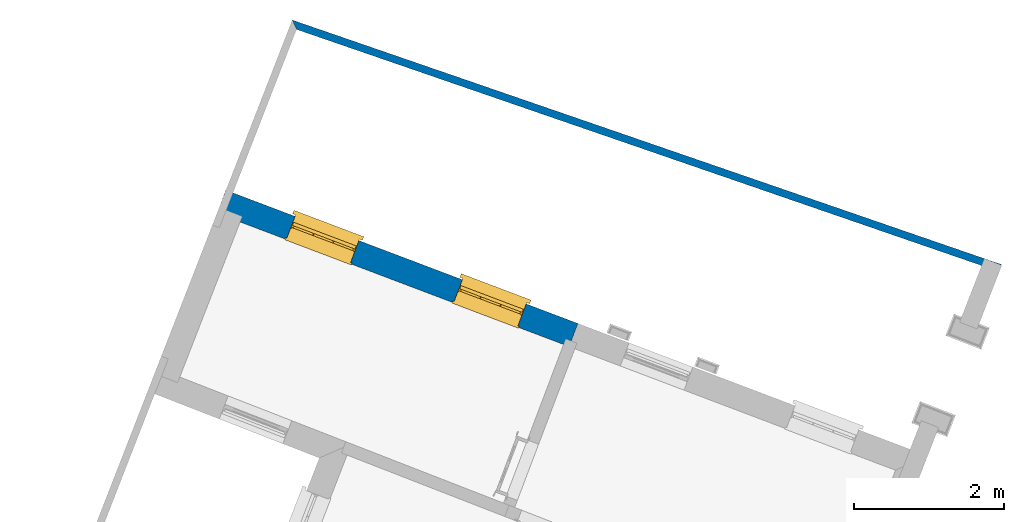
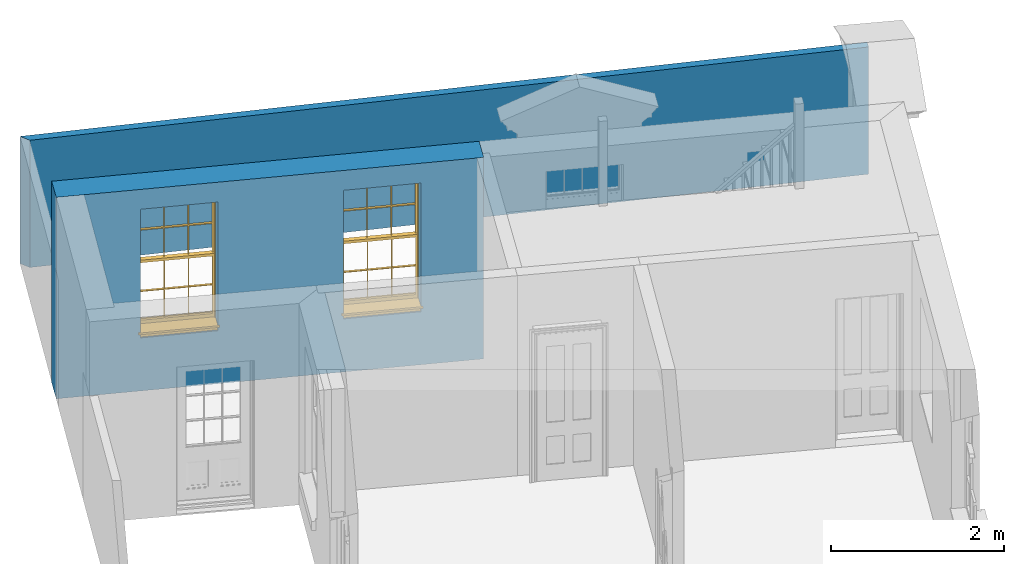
# One storey, part 10 of 10: 2 walls, 2 windows, 2 openings.
"""IFC4 building model written with IfcOpenShell, lengths in metres."""

import ifcopenshell
import ifcopenshell.guid

model = None  # the IFC model being written
_history = None  # IfcOwnerHistory: only IFC2X3 demands one
_inside = {}  # id of a spatial element -> (the spatial element, [elements in it])
_under = {}  # id of a project, library or spatial element -> (it, [spatial elements below it])
_declared = {}  # id of a project -> (the project, [libraries it declares])
_typed = {}  # id of a type object -> (the type object, [elements of that type])
_made_of = {}  # id of a material, layer set ... -> (it, [elements and type objects made of it])


def new_model(schema):
    """Start an empty IFC model of exactly this schema.

    Asked for "IFC4X3", IfcOpenShell would pick the latest addendum, in which some entities
    have other attributes; the version numbers below select the first issue.
    IFC2X3 requires an IfcOwnerHistory on every rooted entity: one is made here for all.
    """
    global model, _history
    if schema == "IFC4X3":
        model = ifcopenshell.file(schema_version=(4, 3, 0, 0))
    else:
        model = ifcopenshell.file(schema=schema)
    _inside.clear()
    _under.clear()
    _declared.clear()
    _typed.clear()
    _made_of.clear()
    _history = None
    if model.schema == "IFC2X3":
        org = make("IfcOrganization", Name="unknown")
        user = make(
            "IfcPersonAndOrganization",
            ThePerson=make("IfcPerson", FamilyName="unknown"),
            TheOrganization=org,
        )
        app = make(
            "IfcApplication",
            ApplicationDeveloper=org,
            Version="unknown",
            ApplicationFullName="unknown",
            ApplicationIdentifier="unknown",
        )
        _history = make(
            "IfcOwnerHistory",
            OwningUser=user,
            OwningApplication=app,
            ChangeAction="ADDED",
            CreationDate=0,
        )
    return model


def make(cls, **values):
    """One entity of the class cls with the attributes given. An attribute that is None is left unset."""
    return model.create_entity(
        cls, **{name: value for name, value in values.items() if value is not None}
    )


def rooted(cls, **values):
    """An entity with a GlobalId (a new one), such as an element, a storey or a relation."""
    return make(cls, GlobalId=ifcopenshell.guid.new(), OwnerHistory=_history, **values)


def si_unit(unit_type, name, prefix=None):
    """IfcSIUnit, for example si_unit("LENGTHUNIT", "METRE", prefix="MILLI")."""
    return make("IfcSIUnit", UnitType=unit_type, Prefix=prefix, Name=name)


def assignment(units):
    """IfcUnitAssignment: the units of a project."""
    return None if units is None else make("IfcUnitAssignment", Units=units)


def point(xyz):
    """IfcCartesianPoint."""
    return None if xyz is None else make("IfcCartesianPoint", Coordinates=xyz)


def direction(xyz):
    """IfcDirection."""
    return None if xyz is None else make("IfcDirection", DirectionRatios=xyz)


def frame(location, z_axis=None, x_axis=None):
    """IfcAxis2Placement3D, a coordinate frame: its origin and axes. An axis left out is left unset."""
    return make(
        "IfcAxis2Placement3D",
        Location=point(location),
        Axis=direction(z_axis),
        RefDirection=direction(x_axis),
    )


def origin():
    """The frame at (0, 0, 0) with its axes left unset."""
    return frame((0.0, 0.0, 0.0))


def origin_with_axes():
    """The frame at (0, 0, 0) with the z axis (0, 0, 1) and the x axis (1, 0, 0) written out."""
    return frame((0.0, 0.0, 0.0), z_axis=(0.0, 0.0, 1.0), x_axis=(1.0, 0.0, 0.0))


def place(relative_to, where):
    """IfcLocalPlacement: puts the frame where relative to a parent placement (None: the world)."""
    return make(
        "IfcLocalPlacement", PlacementRelTo=relative_to, RelativePlacement=where
    )


def context(
    kind, dimensions, precision=None, world=None, true_north=None, identifier=None
):
    """IfcGeometricRepresentationContext, for example the 3D "Model" context."""
    return make(
        "IfcGeometricRepresentationContext",
        ContextIdentifier=identifier,
        ContextType=kind,
        CoordinateSpaceDimension=dimensions,
        Precision=precision,
        WorldCoordinateSystem=world,
        TrueNorth=true_north,
    )


def subcontext(parent, identifier, kind, view, scale=None):
    """IfcGeometricRepresentationSubContext, for example "Body" below "Model"."""
    return make(
        "IfcGeometricRepresentationSubContext",
        ContextIdentifier=identifier,
        ContextType=kind,
        ParentContext=parent,
        TargetScale=scale,
        TargetView=view,
    )


def project(units=None, contexts=None):
    """IfcProject with its units and contexts."""
    return rooted(
        "IfcProject",
        Name="project",
        RepresentationContexts=contexts,
        UnitsInContext=assignment(units),
    )


def spatial(cls, under=None, at=None, **own):
    """A site, building, storey or space (cls), placed at a placement, below another one or the project."""
    s = rooted(cls, ObjectPlacement=at, **own)
    if under is not None:
        _under.setdefault(under.id(), (under, []))[1].append(s)
    return s


def polyline(points):
    """IfcPolyline through the points."""
    return make("IfcPolyline", Points=[point(p) for p in points])


def outline(outer, holes=None, kind="AREA"):
    """IfcArbitraryClosedProfileDef: a profile drawn as a closed curve; with holes, ...WithVoids."""
    if holes is None:
        return make("IfcArbitraryClosedProfileDef", ProfileType=kind, OuterCurve=outer)
    return make(
        "IfcArbitraryProfileDefWithVoids",
        ProfileType=kind,
        OuterCurve=outer,
        InnerCurves=holes,
    )


def extrude(swept, where, along, depth):
    """IfcExtrudedAreaSolid: the profile swept, set in the frame where, extruded along a direction by depth."""
    return make(
        "IfcExtrudedAreaSolid",
        SweptArea=swept,
        Position=where,
        ExtrudedDirection=direction(along),
        Depth=depth,
    )


def faces_of(points, faces, orient=None, outer=None):
    """IfcFace entities. A face is a list of loops; a loop is a list of indices into points, from 0.

    orient and outer hold one flag for each loop. By default every Orientation is true, the
    first loop of a face is its IfcFaceOuterBound and the others are IfcFaceBound.
    """
    made = []
    for i, loops in enumerate(faces):
        bounds = []
        for j, loop in enumerate(loops):
            is_outer = j == 0 if outer is None else outer[i][j]
            bounds.append(
                make(
                    "IfcFaceOuterBound" if is_outer else "IfcFaceBound",
                    Bound=make("IfcPolyLoop", Polygon=[points[k] for k in loop]),
                    Orientation=True if orient is None else orient[i][j],
                )
            )
        made.append(make("IfcFace", Bounds=bounds))
    return made


def faceted_brep(points, faces, orient=None, outer=None, voids=None):
    """IfcFacetedBrep: a solid bounded by flat faces; with voids (closed shells), ...WithVoids."""
    shared = [point(p) for p in points]
    hull = make("IfcClosedShell", CfsFaces=faces_of(shared, faces, orient, outer))
    if voids is None:
        return make("IfcFacetedBrep", Outer=hull)
    return make(
        "IfcFacetedBrepWithVoids",
        Outer=hull,
        Voids=[
            make(cls, CfsFaces=faces_of(shared, fs, o, b)) for cls, fs, o, b in voids
        ],
    )


def shape(context_of_items, identifier, shape_type, items):
    """IfcShapeRepresentation: the items that make up one representation, for example the "Body"."""
    return make(
        "IfcShapeRepresentation",
        ContextOfItems=context_of_items,
        RepresentationIdentifier=identifier,
        RepresentationType=shape_type,
        Items=items,
    )


def source(mapping_origin, context_of_items, identifier, shape_type, items):
    """IfcRepresentationMap: a shape defined once, which mapped items show again and again."""
    return make(
        "IfcRepresentationMap",
        MappingOrigin=mapping_origin,
        MappedRepresentation=shape(context_of_items, identifier, shape_type, items),
    )


def transform(
    local_origin,
    x_axis=None,
    y_axis=None,
    z_axis=None,
    scale=None,
    scale2=None,
    scale3=None,
    uniform=True,
):
    """IfcCartesianTransformationOperator3D, or its non-uniform kind. x_axis, y_axis, z_axis: its Axis1, 2, 3."""
    if uniform:
        return make(
            "IfcCartesianTransformationOperator3D",
            Axis1=direction(x_axis),
            Axis2=direction(y_axis),
            LocalOrigin=point(local_origin),
            Scale=scale,
            Axis3=direction(z_axis),
        )
    return make(
        "IfcCartesianTransformationOperator3DnonUniform",
        Axis1=direction(x_axis),
        Axis2=direction(y_axis),
        LocalOrigin=point(local_origin),
        Scale=scale,
        Axis3=direction(z_axis),
        Scale2=scale2,
        Scale3=scale3,
    )


def mapped(mapping_source, mapping_target):
    """IfcMappedItem: shows the shape of a source again, moved by a transform."""
    return make(
        "IfcMappedItem", MappingSource=mapping_source, MappingTarget=mapping_target
    )


def material(Name=None, Category=None):
    """IfcMaterial."""
    return make("IfcMaterial", Name=Name, Category=Category)


def layer(
    of_material, thickness, ventilated=None, Name=None, Category=None, Priority=None
):
    """IfcMaterialLayer: one layer of a wall or slab, of a material (None: an air gap)."""
    return make(
        "IfcMaterialLayer",
        Material=of_material,
        LayerThickness=thickness,
        IsVentilated=ventilated,
        Name=Name,
        Category=Category,
        Priority=Priority,
    )


def layer_set(layers, Name=None):
    """IfcMaterialLayerSet."""
    return make("IfcMaterialLayerSet", MaterialLayers=layers, LayerSetName=Name)


def layer_usage(for_layer_set, set_direction, sense, offset, extent=None):
    """IfcMaterialLayerSetUsage: how a layer set lies in its element."""
    return make(
        "IfcMaterialLayerSetUsage",
        ForLayerSet=for_layer_set,
        LayerSetDirection=set_direction,
        DirectionSense=sense,
        OffsetFromReferenceLine=offset,
        ReferenceExtent=extent,
    )


def made_of(thing, what):
    """Note that an element or type object is made of a material, layer set ...; save() writes the relation."""
    if what is not None:
        _made_of.setdefault(what.id(), (what, []))[1].append(thing)
    return thing


def type_object(cls, material=None, **own):
    """A type object (cls), such as IfcWallType, which elements share."""
    return made_of(rooted(cls, **own), material)


def type_shapes(of_type, sources):
    """Give a type object the sources (RepresentationMaps) that its elements show as mapped items."""
    of_type.RepresentationMaps = sources


def element(
    cls,
    number,
    at=None,
    inside=None,
    cuts=None,
    type_object=None,
    material=None,
    context=None,
    identifier="Body",
    shape_type=None,
    held_by="IfcProductDefinitionShape",
    body=None,
    shapes=None,
    **own,
):
    """One element of the class cls, such as IfcWall. Its Tag is "e" and its number.

    at: its placement. inside: the storey or other place that contains it. cuts: it is an
    opening in that element (IfcRelVoidsElement). A single representation is given by context,
    identifier, shape_type and body (its items); several are given by shapes. held_by: the class
    of the entity that holds the representations. save() writes the other relations.
    """
    e = rooted(cls, Tag="e%d" % number, ObjectPlacement=at, **own)
    if body is not None:
        shapes = [shape(context, identifier, shape_type, body)]
    if shapes is not None:
        e.Representation = make(held_by, Representations=shapes)
    if inside is not None:
        _inside.setdefault(inside.id(), (inside, []))[1].append(e)
    if cuts is not None:
        rooted(
            "IfcRelVoidsElement", RelatingBuildingElement=cuts, RelatedOpeningElement=e
        )
    if type_object is not None:
        _typed.setdefault(type_object.id(), (type_object, []))[1].append(e)
    return made_of(e, material)


def fill(opening, filler):
    """IfcRelFillsElement: the door or window that sits in an opening."""
    return rooted(
        "IfcRelFillsElement",
        RelatingOpeningElement=opening,
        RelatedBuildingElement=filler,
    )


def aggregate(whole, parts):
    """IfcRelAggregates: a whole, such as a stair, and the parts it consists of."""
    return rooted("IfcRelAggregates", RelatingObject=whole, RelatedObjects=parts)


def save(model, path):
    """Write the relations noted so far, then the file.

    IfcRelAggregates (storeys below a building ...), IfcRelContainedInSpatialStructure (elements
    in a storey), IfcRelDefinesByType, IfcRelAssociatesMaterial and IfcRelDeclares: one each for
    every whole, place, type object, material and project.
    """
    for whole, parts in _under.values():
        aggregate(whole, parts)
    for where, things in _inside.values():
        rooted(
            "IfcRelContainedInSpatialStructure",
            RelatedElements=things,
            RelatingStructure=where,
        )
    for kind, things in _typed.values():
        rooted("IfcRelDefinesByType", RelatedObjects=things, RelatingType=kind)
    for what, things in _made_of.values():
        rooted("IfcRelAssociatesMaterial", RelatedObjects=things, RelatingMaterial=what)
    for by, libraries in _declared.values():
        rooted("IfcRelDeclares", RelatingContext=by, RelatedDefinitions=libraries)
    model.write(path)


model = new_model("IFC4")

# Units and contexts
model_context = context("Model", 3, world=origin_with_axes())
body_context = subcontext(model_context, "Body", "Model", "MODEL_VIEW")
ifc_project = project(units=[si_unit("PLANEANGLEUNIT", "RADIAN"), si_unit("MASSUNIT", "GRAM", prefix="KILO"), si_unit("FORCEUNIT", "NEWTON", prefix="KILO"), si_unit("LENGTHUNIT", "METRE"), si_unit("AREAUNIT", "SQUARE_METRE"), si_unit("VOLUMEUNIT", "CUBIC_METRE")], contexts=[model_context, model_context])

# Sites, building, storey
site_1_placement = place(None, origin_with_axes())
site_1 = spatial("IfcSite", under=ifc_project, at=site_1_placement, Name="Tamar")
site_2_placement = place(site_1_placement, origin_with_axes())
site_2 = spatial("IfcSite", under=site_1, at=site_2_placement, Name="Site plot-8", CompositionType="ELEMENT")
building_placement = place(None, origin_with_axes())
building = spatial("IfcBuilding", under=site_2, at=building_placement, Name="Building plot-8", CompositionType="ELEMENT")
storey_placement = place(None, frame((0.0, 0.0, 26.0), z_axis=(0.0, 0.0, 1.0), x_axis=(1.0, 0.0, 0.0)))
storey = spatial("IfcBuildingStorey", under=building, at=storey_placement, Name="plot-8 0", CompositionType="ELEMENT", Elevation=26.0)

# Wall, openings, windows
ifc_material_1 = material(Name="Masonry")
ifc_layer_1 = layer(ifc_material_1, 0.33, ventilated=False)
ifc_layer_set_1 = layer_set([ifc_layer_1], Name="exterior_0.08_0.25")
ifc_layer_usage_1 = layer_usage(ifc_layer_set_1, "AXIS2", "POSITIVE", -0.25)
wall_type_1 = type_object("IfcWallType", Name="exterior_0.08_0.25", PredefinedType="SOLIDWALL", material=ifc_layer_set_1)
wall_1_placement = place(storey_placement, frame((227.014117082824, 310.741240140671, 0.0), z_axis=(0.0, 0.0, 1.0), x_axis=(-0.935168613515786, 0.354202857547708, 0.0)))
wall_1 = element("IfcWall", 1, at=wall_1_placement, inside=storey, type_object=wall_type_1, material=ifc_layer_usage_1, Name="exterior", context=body_context, shape_type="SweptSolid", body=[
    extrude(outline(polyline([(1.22972879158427e-14, 0.0799999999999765), (1.25608282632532e-14, -0.249999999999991), (5.01861237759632, -0.250000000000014), (5.01861237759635, 0.0799999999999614), (1.22972879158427e-14, 0.0799999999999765)])), origin_with_axes(), (0.0, 0.0, 1.0), 2.85),
])
opening_1_placement = place(wall_1_placement, frame((0.737153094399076, 0.0, 0.75)))
opening_1 = element("IfcOpeningElement", 2, at=opening_1_placement, cuts=wall_1, Name="My Opening", ObjectType="Opening", context=body_context, shape_type="SweptSolid", body=[
    extrude(outline(polyline([(0.0, -0.269999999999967), (0.909999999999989, -0.269999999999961), (0.910000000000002, 1.10000000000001), (1.22124532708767e-14, 1.1), (0.0, -0.269999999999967)])), origin_with_axes(), (0.0, 0.0, 1.0), 1.82),
])
opening_2_placement = place(wall_1_placement, frame((3.12145928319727, 0.0, 0.75)))
opening_2 = element("IfcOpeningElement", 3, at=opening_2_placement, cuts=wall_1, Name="My Opening", ObjectType="Opening", context=body_context, shape_type="SweptSolid", body=[
    extrude(outline(polyline([(0.0, -0.269999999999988), (0.90999999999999, -0.269999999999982), (0.910000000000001, 1.09999999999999), (1.19904086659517e-14, 1.09999999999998), (0.0, -0.269999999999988)])), origin_with_axes(), (0.0, 0.0, 1.0), 1.82),
])
window_type = type_object("IfcWindowType", Name="sash_big", PartitioningType="DOUBLE_PANEL_HORIZONTAL", PredefinedType="NOTDEFINED")
shared_shape = source(origin(), body_context, "Body", "Brep", [
    faceted_brep([(0.033125, 0.145, 0.975209), (0.01, 0.145, 0.975209), (0.033125, 0.145, 1.376042), (0.876875, 0.145, 0.975209), (0.876875, 0.145, 1.376042), (0.9, 0.145, 0.975209), (0.876875, 0.145, 1.386042), (0.876875, 0.145, 1.786875), (0.9, 0.145, 1.81), (0.033125, 0.145, 1.786875), (0.033125, 0.145, 1.386042), (0.01, 0.145, 1.81), (0.876875, 0.115, 1.376042), (0.876875, 0.115, 0.975209), (0.9, 0.115, 0.937083), (0.033125, 0.115, 1.786875), (0.01, 0.115, 1.81), (0.033125, 0.115, 1.386042), (0.01, 0.115, 0.937083), (0.033125, 0.115, 0.975209), (0.033125, 0.115, 1.376042), (0.876875, 0.115, 1.786875), (0.876875, 0.115, 1.386042), (0.9, 0.115, 1.81), (0.033125, 0.145, 0.937083), (0.01, 0.145, 0.937083), (0.033125, 0.145, 0.53625), (0.876875, 0.145, 0.937083), (0.876875, 0.145, 0.53625), (0.9, 0.145, 0.937083), (0.876875, 0.145, 0.52625), (0.876875, 0.145, 0.125417), (0.9, 0.145, 0.077167), (0.033125, 0.145, 0.125417), (0.033125, 0.145, 0.52625), (0.01, 0.145, 0.077167), (-0.0425, 0.0, 0.01), (-0.0425, -0.05, 0.001667), (0.0, 0.0, 0.01), (0.9525, 0.0, 0.01), (0.91, 0.0, 0.01), (0.9525, -0.05, 0.001667), (-0.02, 0.33, 0.077167), (0.0, 0.33, 0.077167), (-0.02, 0.36, 0.077167), (0.0, 0.19, 0.077167), (0.01, 0.19, 0.077167), (0.91, 0.19, 0.077167), (0.91, 0.33, 0.077167), (0.9, 0.19, 0.077167), (0.93, 0.33, 0.077167), (0.93, 0.36, 0.077167), (0.01, 0.175, 0.975209), (0.9, 0.175, 0.975209), (0.876875, 0.175, 0.125417), (0.876875, 0.175, 0.52625), (0.9, 0.175, 0.077167), (0.876875, 0.175, 0.53625), (0.876875, 0.175, 0.937083), (0.033125, 0.175, 0.125417), (0.01, 0.175, 0.077167), (0.033125, 0.175, 0.52625), (0.033125, 0.175, 0.937083), (0.033125, 0.175, 0.53625), (-0.02, 0.33, 0.052167), (-0.02, 0.36, 0.052167), (0.93, 0.36, 0.052167), (0.93, 0.33, 0.052167), (0.91, 0.33, 0.052167), (0.0, 0.33, 0.052167), (0.91, 0.1, 0.026667), (0.0, 0.1, 0.026667), (-0.0425, -0.05, -0.123333), (0.9525, -0.05, -0.123333), (-0.0425, 0.0, -0.123333), (0.9525, 0.0, -0.123333), (0.01, 0.19, 1.81), (0.9, 0.19, 1.81), (0.0, 0.19, 1.82), (0.91, 0.19, 1.82), (0.01, 0.1, 0.077167), (0.9, 0.1, 0.077167), (0.592292, 0.145, 0.125417), (0.592292, 0.175, 0.125417), (0.317708, 0.175, 0.125417), (0.317708, 0.145, 0.125417), (0.592292, 0.145, 0.53625), (0.317708, 0.145, 0.53625), (0.317708, 0.145, 0.52625), (0.592292, 0.145, 0.52625), (0.592292, 0.175, 0.53625), (0.317708, 0.175, 0.53625), (0.592292, 0.115, 1.386042), (0.592292, 0.145, 1.386042), (0.317708, 0.145, 1.386042), (0.317708, 0.115, 1.386042), (0.317708, 0.115, 1.376042), (0.592292, 0.115, 1.376042), (0.317708, 0.145, 1.376042), (0.592292, 0.145, 1.376042), (0.602292, 0.115, 1.376042), (0.592292, 0.115, 0.975209), (0.602292, 0.115, 0.975209), (0.602292, 0.145, 0.975209), (0.592292, 0.145, 0.975209), (0.602292, 0.145, 1.376042), (0.602292, 0.175, 0.53625), (0.602292, 0.145, 0.53625), (0.317708, 0.175, 0.52625), (0.307708, 0.175, 0.125417), (0.307708, 0.175, 0.52625), (0.602292, 0.175, 0.52625), (0.602292, 0.175, 0.125417), (0.592292, 0.175, 0.52625), (0.307708, 0.175, 0.53625), (0.317708, 0.175, 0.937083), (0.307708, 0.175, 0.937083), (0.602292, 0.175, 0.937083), (0.592292, 0.175, 0.937083), (0.307708, 0.145, 0.52625), (0.307708, 0.145, 0.125417), (0.307708, 0.145, 0.53625), (0.307708, 0.145, 0.937083), (0.592292, 0.145, 0.937083), (0.317708, 0.145, 0.937083), (0.602292, 0.145, 0.937083), (0.602292, 0.145, 0.52625), (0.602292, 0.145, 0.125417), (0.307708, 0.115, 1.386042), (0.307708, 0.115, 1.376042), (0.307708, 0.115, 0.975209), (0.317708, 0.115, 0.975209), (0.317708, 0.115, 1.786875), (0.307708, 0.115, 1.786875), (0.602292, 0.115, 1.786875), (0.592292, 0.115, 1.786875), (0.602292, 0.115, 1.386042), (0.602292, 0.145, 1.386042), (0.307708, 0.145, 1.386042), (0.307708, 0.145, 1.786875), (0.317708, 0.145, 1.786875), (0.592292, 0.145, 1.786875), (0.602292, 0.145, 1.786875), (0.307708, 0.145, 1.376042), (0.317708, 0.145, 0.975209), (0.307708, 0.145, 0.975209), (0.91, 0.1, 1.82), (0.9, 0.1, 1.81), (0.01, 0.1, 1.81), (0.0, 0.1, 1.82), (0.91, 0.0, 0.0), (0.0, 0.0, 0.0), (0.91, 0.33, 0.0), (0.0, 0.33, 0.0)], [[[0, 1, 2]], [[3, 4, 5]], [[6, 7, 8]], [[9, 10, 11]], [[12, 13, 14]], [[15, 16, 17]], [[18, 19, 20]], [[21, 22, 23]], [[24, 25, 26]], [[27, 28, 29]], [[30, 31, 32]], [[33, 34, 35]], [[14, 27, 29]], [[25, 24, 18]], [[36, 37, 38]], [[39, 40, 41]], [[42, 43, 44]], [[45, 46, 43]], [[47, 48, 49]], [[50, 51, 48]], [[1, 0, 52]], [[5, 53, 3]], [[54, 55, 56]], [[57, 58, 53]], [[59, 60, 61]], [[62, 63, 52]], [[48, 43, 46, 49]], [[51, 44, 43, 48]], [[64, 42, 44, 65]], [[65, 44, 51, 66]], [[66, 51, 50, 67]], [[65, 66, 68, 69]], [[60, 56, 49, 46]], [[70, 71, 38, 40]], [[37, 41, 40, 38]], [[37, 72, 73, 41]], [[74, 75, 73, 72]], [[8, 11, 76, 77]], [[76, 78, 79, 77]], [[32, 35, 80, 81]], [[81, 80, 71, 70]], [[82, 83, 84, 85]], [[86, 87, 88, 89]], [[86, 90, 91, 87]], [[92, 93, 94, 95]], [[92, 95, 96, 97]], [[96, 98, 99, 97]], [[100, 97, 101, 102]], [[103, 104, 99, 105]], [[97, 99, 104, 101]], [[102, 103, 105, 100]], [[28, 57, 106, 107]], [[108, 84, 109, 110]], [[111, 112, 83, 113]], [[114, 110, 61, 63]], [[90, 113, 108, 91]], [[115, 91, 114, 116]], [[117, 106, 90, 118]], [[111, 106, 57, 55]], [[119, 110, 109, 120]], [[34, 61, 110, 119]], [[89, 113, 83, 82]], [[88, 108, 113, 89]], [[85, 84, 108, 88]], [[121, 114, 63, 26]], [[122, 116, 114, 121]], [[123, 118, 90, 86]], [[87, 91, 115, 124]], [[107, 106, 117, 125]], [[126, 111, 55, 30]], [[127, 112, 111, 126]], [[126, 30, 28, 107]], [[88, 119, 120, 85]], [[126, 89, 82, 127]], [[125, 123, 86, 107]], [[121, 26, 34, 119]], [[124, 122, 121, 87]], [[128, 17, 20, 129]], [[96, 129, 130, 131]], [[132, 133, 128, 95]], [[134, 135, 92, 136]], [[100, 12, 22, 136]], [[137, 6, 4, 105]], [[94, 138, 139, 140]], [[137, 93, 141, 142]], [[99, 98, 94, 93]], [[143, 2, 10, 138]], [[144, 145, 143, 98]], [[129, 143, 145, 130]], [[20, 2, 143, 129]], [[131, 144, 98, 96]], [[128, 138, 10, 17]], [[133, 139, 138, 128]], [[135, 141, 93, 92]], [[95, 94, 140, 132]], [[22, 6, 137, 136]], [[136, 137, 142, 134]], [[100, 105, 4, 12]], [[107, 86, 89, 126]], [[106, 111, 113, 90]], [[91, 108, 110, 114]], [[87, 121, 119, 88]], [[97, 100, 136, 92]], [[129, 96, 95, 128]], [[98, 143, 138, 94]], [[105, 99, 93, 137]], [[131, 101, 104, 144]], [[124, 115, 118, 123]], [[132, 140, 141, 135]], [[120, 109, 59, 33]], [[15, 9, 139, 133]], [[134, 142, 7, 21]], [[31, 54, 112, 127]], [[36, 74, 72, 37]], [[39, 41, 73, 75]], [[18, 14, 101, 131]], [[23, 16, 132, 135]], [[83, 56, 60, 84]], [[52, 53, 118, 115]], [[53, 52, 144, 104]], [[11, 8, 141, 140]], [[14, 18, 124, 123]], [[2, 1, 11, 10]], [[8, 5, 4, 6]], [[57, 53, 56, 55]], [[60, 52, 63, 61]], [[26, 25, 35, 34]], [[32, 29, 28, 30]], [[14, 23, 22, 12]], [[18, 20, 17, 16]], [[19, 0, 2, 20]], [[17, 10, 9, 15]], [[12, 4, 3, 13]], [[21, 7, 6, 22]], [[27, 58, 57, 28]], [[30, 55, 54, 31]], [[33, 59, 61, 34]], [[26, 63, 62, 24]], [[5, 8, 77, 53]], [[76, 11, 1, 52]], [[46, 45, 78, 76]], [[49, 77, 79, 47]], [[70, 146, 147, 81]], [[71, 80, 148, 149]], [[19, 130, 145, 0]], [[102, 13, 3, 103]], [[116, 122, 24, 62]], [[29, 32, 81, 14]], [[80, 35, 25, 18]], [[60, 46, 76, 52]], [[77, 49, 56, 53]], [[23, 14, 81, 147]], [[16, 148, 80, 18]], [[35, 85, 120]], [[120, 33, 35]], [[127, 82, 32]], [[32, 31, 127]], [[32, 82, 85, 35]], [[102, 101, 14]], [[14, 13, 102]], [[18, 131, 130]], [[130, 19, 18]], [[134, 21, 23]], [[23, 135, 134]], [[16, 15, 133]], [[133, 132, 16]], [[11, 140, 139]], [[139, 9, 11]], [[142, 141, 8]], [[8, 7, 142]], [[23, 147, 148, 16]], [[146, 149, 148, 147]], [[52, 115, 116]], [[116, 62, 52]], [[118, 53, 117]], [[58, 117, 53]], [[27, 125, 117, 58]], [[56, 83, 112]], [[112, 54, 56]], [[109, 84, 60]], [[60, 59, 109]], [[125, 27, 14]], [[14, 123, 125]], [[122, 124, 18]], [[18, 24, 122]], [[145, 144, 52]], [[52, 0, 145]], [[103, 3, 53]], [[53, 104, 103]], [[79, 78, 149, 146]], [[78, 45, 71, 149]], [[146, 70, 47, 79]], [[150, 75, 74, 151]], [[68, 66, 67]], [[48, 68, 67, 50]], [[69, 64, 65]], [[42, 64, 69, 43]], [[69, 68, 152, 153]], [[70, 68, 48, 47]], [[150, 152, 68, 70]], [[43, 69, 71, 45]], [[69, 153, 151, 71]], [[152, 150, 151, 153]], [[38, 151, 74, 36]], [[71, 151, 38]], [[39, 75, 150, 40]], [[40, 150, 70]]]),
])
type_shapes(window_type, [shared_shape])
window_1_placement = place(storey_placement, frame((226.420389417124, 311.254837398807, 0.75), z_axis=(0.0, 0.0, 1.0), x_axis=(-0.851003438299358, 0.322324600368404, 0.0)))
window_1 = element("IfcWindow", 4, at=window_1_placement, inside=storey, type_object=window_type, Name="bedroom outside window", OverallHeight=1.82, OverallWidth=0.91, context=body_context, shape_type="MappedRepresentation", body=[
    mapped(shared_shape, transform((0.0, 0.0, 0.0), scale=1.0)),
])
fill(opening_1, window_1)
window_2_placement = place(storey_placement, frame((224.190661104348, 312.099365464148, 0.75), z_axis=(0.0, 0.0, 1.0), x_axis=(-0.851003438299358, 0.322324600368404, 0.0)))
window_2 = element("IfcWindow", 5, at=window_2_placement, inside=storey, type_object=window_type, Name="bedroom outside window", OverallHeight=1.82, OverallWidth=0.91, context=body_context, shape_type="MappedRepresentation", body=[
    mapped(shared_shape, transform((0.0, 0.0, 0.0), scale=1.0)),
])
fill(opening_2, window_2)

# Wall
ifc_material_2 = material(Name="Masonry")
ifc_layer_2 = layer(ifc_material_2, 0.1, ventilated=False)
ifc_layer_set_2 = layer_set([ifc_layer_2], Name="fence_-0.15_0.25")
ifc_layer_usage_2 = layer_usage(ifc_layer_set_2, "AXIS2", "POSITIVE", -0.25)
wall_type_2 = type_object("IfcWallType", Name="fence_-0.15_0.25", PredefinedType="SOLIDWALL", material=ifc_layer_set_2)
wall_2_placement = place(storey_placement, frame((232.428759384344, 311.607039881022, 0.0), z_axis=(0.0, 0.0, 1.0), x_axis=(-0.945414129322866, 0.325871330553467, 0.0)))
element("IfcWall", 6, at=wall_2_placement, inside=storey, type_object=wall_type_2, material=ifc_layer_usage_2, Name="fence", context=body_context, shape_type="SweptSolid", body=[
    extrude(outline(polyline([(-0.24999999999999, -0.15000000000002), (-0.249999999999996, -0.250000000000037), (9.74771037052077, -0.250000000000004), (9.65156958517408, -0.150000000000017), (-0.24999999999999, -0.15000000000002)])), origin_with_axes(), (0.0, 0.0, 1.0), 1.8),
])

save(model, "model.ifc")
